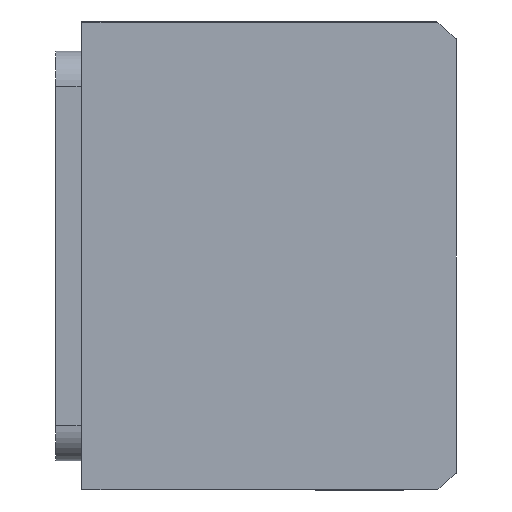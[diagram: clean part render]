
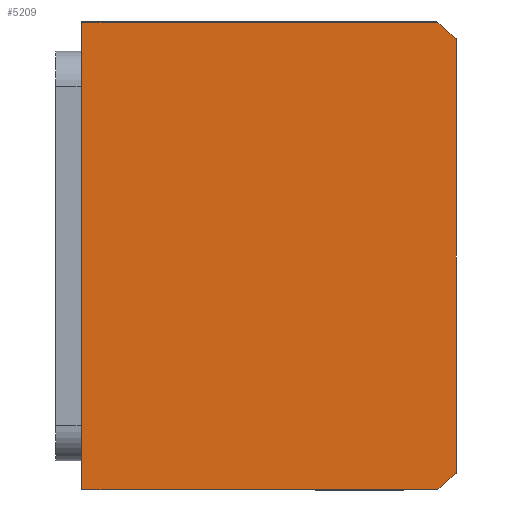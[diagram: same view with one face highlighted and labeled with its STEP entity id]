
A CAD part, front view. The second image highlights one B-rep face of the part: STEP entity #5209.
In plain terms, the highlighted planar face has unit normal (0, -1, 0) as drawn and (0, 0, -1) by its records, which use the part's own axes.
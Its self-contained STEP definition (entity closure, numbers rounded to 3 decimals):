
#228 = VECTOR ( 'NONE', #6203, 1000. ) ;
#244 = ORIENTED_EDGE ( 'NONE', *, *, #9634, .F. ) ;
#485 = AXIS2_PLACEMENT_3D ( 'NONE', #6443, #1657, #7248 ) ;
#533 = DIRECTION ( 'NONE',  ( 1., 0., 0. ) ) ;
#535 = CARTESIAN_POINT ( 'NONE',  ( 37.094, -32., 0. ) ) ;
#726 = LINE ( 'NONE', #8608, #228 ) ;
#815 = ORIENTED_EDGE ( 'NONE', *, *, #1157, .F. ) ;
#869 = LINE ( 'NONE', #3861, #9090 ) ;
#967 = FACE_OUTER_BOUND ( 'NONE', #3629, .T. ) ;
#1157 = EDGE_CURVE ( 'NONE', #8094, #6084, #869, .T. ) ;
#1400 = CARTESIAN_POINT ( 'NONE',  ( 0., 3., 0. ) ) ;
#1439 = DIRECTION ( 'NONE',  ( 0., 1., 0. ) ) ;
#1657 = DIRECTION ( 'NONE',  ( 0., 0., 1. ) ) ;
#1717 = EDGE_CURVE ( 'NONE', #4485, #8972, #726, .T. ) ;
#1884 = CARTESIAN_POINT ( 'NONE',  ( -40., -28.639, 0. ) ) ;
#1965 = LINE ( 'NONE', #3178, #4591 ) ;
#2220 = DIRECTION ( 'NONE',  ( -1., 0., 0. ) ) ;
#2251 = EDGE_CURVE ( 'NONE', #3495, #7978, #1965, .T. ) ;
#2468 = EDGE_CURVE ( 'NONE', #8972, #3495, #7823, .T. ) ;
#3178 = CARTESIAN_POINT ( 'NONE',  ( -40., -32., 0. ) ) ;
#3495 = VERTEX_POINT ( 'NONE', #8620 ) ;
#3629 = EDGE_LOOP ( 'NONE', ( #8172, #5666, #244, #815, #10075, #3748 ) ) ;
#3729 = CARTESIAN_POINT ( 'NONE',  ( 40., 32., 0. ) ) ;
#3748 = ORIENTED_EDGE ( 'NONE', *, *, #2251, .F. ) ;
#3861 = CARTESIAN_POINT ( 'NONE',  ( 40., 32., 0. ) ) ;
#3917 = DIRECTION ( 'NONE',  ( 0., 0., 1. ) ) ;
#4267 = CARTESIAN_POINT ( 'NONE',  ( -40., 32., 0. ) ) ;
#4485 = VERTEX_POINT ( 'NONE', #4267 ) ;
#4591 = VECTOR ( 'NONE', #8734, 1000. ) ;
#5209 = ADVANCED_FACE ( 'NONE', ( #967 ), #7057, .F. ) ;
#5472 = CIRCLE ( 'NONE', #485, 51. ) ;
#5666 = ORIENTED_EDGE ( 'NONE', *, *, #1717, .F. ) ;
#6084 = VERTEX_POINT ( 'NONE', #3729 ) ;
#6194 = CARTESIAN_POINT ( 'NONE',  ( -40., 32., 0. ) ) ;
#6203 = DIRECTION ( 'NONE',  ( 0., -1., 0. ) ) ;
#6268 = CARTESIAN_POINT ( 'NONE',  ( 0., 0., 0. ) ) ;
#6443 = CARTESIAN_POINT ( 'NONE',  ( 0., 3., 0. ) ) ;
#7057 = PLANE ( 'NONE',  #8733 ) ;
#7212 = LINE ( 'NONE', #6194, #9078 ) ;
#7248 = DIRECTION ( 'NONE',  ( 1., 0., 0. ) ) ;
#7823 = CIRCLE ( 'NONE', #8154, 51. ) ;
#7978 = VERTEX_POINT ( 'NONE', #535 ) ;
#8094 = VERTEX_POINT ( 'NONE', #9348 ) ;
#8154 = AXIS2_PLACEMENT_3D ( 'NONE', #1400, #9346, #533 ) ;
#8172 = ORIENTED_EDGE ( 'NONE', *, *, #2468, .F. ) ;
#8608 = CARTESIAN_POINT ( 'NONE',  ( -40., 32., 0. ) ) ;
#8620 = CARTESIAN_POINT ( 'NONE',  ( -37.094, -32., 0. ) ) ;
#8733 = AXIS2_PLACEMENT_3D ( 'NONE', #6268, #3917, #9469 ) ;
#8734 = DIRECTION ( 'NONE',  ( 1., 0., 0. ) ) ;
#8972 = VERTEX_POINT ( 'NONE', #1884 ) ;
#9078 = VECTOR ( 'NONE', #2220, 1000. ) ;
#9090 = VECTOR ( 'NONE', #1439, 1000. ) ;
#9346 = DIRECTION ( 'NONE',  ( 0., 0., 1. ) ) ;
#9348 = CARTESIAN_POINT ( 'NONE',  ( 40., -28.639, 0. ) ) ;
#9469 = DIRECTION ( 'NONE',  ( 1., 0., 0. ) ) ;
#9634 = EDGE_CURVE ( 'NONE', #6084, #4485, #7212, .T. ) ;
#9947 = EDGE_CURVE ( 'NONE', #7978, #8094, #5472, .T. ) ;
#10075 = ORIENTED_EDGE ( 'NONE', *, *, #9947, .F. ) ;
